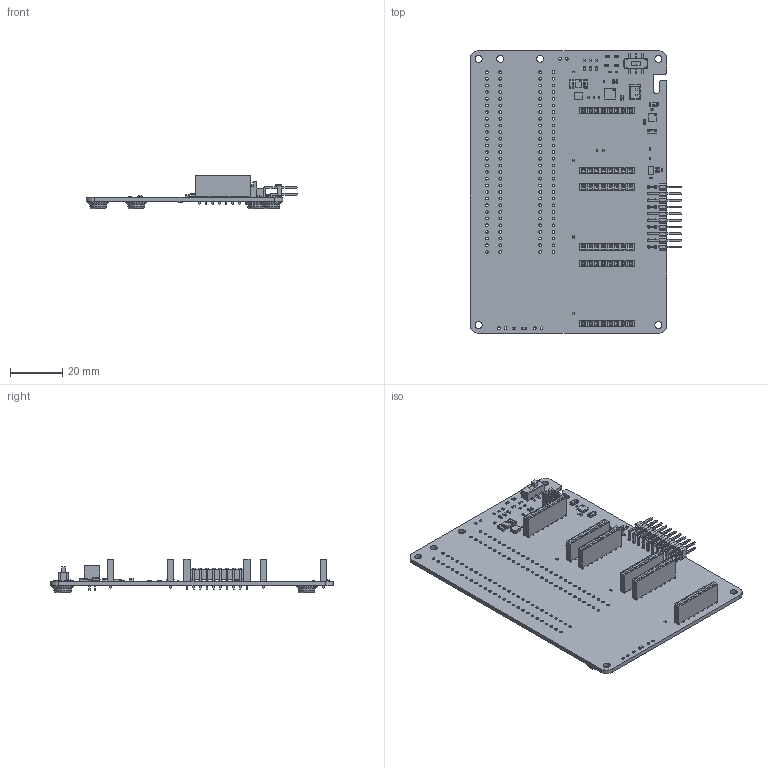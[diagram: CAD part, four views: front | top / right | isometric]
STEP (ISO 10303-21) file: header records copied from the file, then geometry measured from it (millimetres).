
FILE_DESCRIPTION(('Open CASCADE Model'),'2;1');
FILE_NAME('Open CASCADE Shape Model','2018-09-20T15:16:37',('Author'),( 'Open CASCADE'),'Open CASCADE STEP processor 6.8','Open CASCADE 6.8' ,'Unknown');
FILE_SCHEMA(('AUTOMOTIVE_DESIGN { 1 0 10303 214 1 1 1 1 }'));
Length unit declared in the file: millimetre
Products named in the file (101): PCB; Board; R22; 0402_SMD_Resistor; J13; 0603_SMD_Resistor; J12; J11; D4; SW3dPS-LED_SMD0603; E4; SJxx76; E3; E2; E1; R21; C8; 1206_SMD_Capacitor; SW1; Metal; Extruded; 6213491904; 6213491712; 6213491520; 6213491328; J9; J10; U5; 6610365952; Open_CASCADE_STEP_translator_6.8_5.1; Body; Open_CASCADE_STEP_translator_6.8_5.2.1; Thermal_Shape; Pin_Shape; Open_CASCADE_STEP_translator_6.8_5.4.1; C2; C3; smd_0805; C7; C4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
Assembly tree (183 placements, depth 5):
  PCB
    Board
    R22
      0402_SMD_Resistor
    J13
      0603_SMD_Resistor
    J12
      0603_SMD_Resistor
    J11
      0603_SMD_Resistor
    D4
      SW3dPS-LED_SMD0603
    E4
      SJxx76
    E3
      SJxx76
    E2
      SJxx76
    E1
      SJxx76
    R21
      0402_SMD_Resistor
    C8
      1206_SMD_Capacitor
    SW1
      Metal  x6
        Extruded
      6213491904  x2
        Extruded
      6213491712
        Extruded
      6213491520
      6213491328
        Extruded
    J9
      0603_SMD_Resistor
    J10
      0603_SMD_Resistor
    U5
      6610365952
        Open_CASCADE_STEP_translator_6.8_5.1
        Body
          Open_CASCADE_STEP_translator_6.8_5.2.1
        Thermal_Shape
        Pin_Shape  x12
          Open_CASCADE_STEP_translator_6.8_5.4.1
    C2
      1206_SMD_Capacitor
    C3
      smd_0805
    C7
      1206_SMD_Capacitor
    C4
      smd_0805
    D1
      SW3dPS-LED_SMD0603
    D2
      SW3dPS-LED_SMD0603
    D3
      SW3dPS-LED_SMD0603
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Bounding box: 80.64 x 107.95 x 12.89 mm (x, y, z)
Volume: 15622.1 mm3; surface area: 24945.2 mm2
Topology: 126 solids, 129 shells, 6125 faces, 15098 edges, 9133 vertices
Faces by surface type: plane 3977, cylinder 974, bspline 882, sphere 272, torus 16, cone 4
Full cylindrical faces by diameter (mm): 0.375 x1, 0.381 x1, 0.5 x1, 0.9 x2, 1.02 x186, 2.7 x6, 8.001 x4
Entity records: 78294 total; most frequent: CARTESIAN_POINT 19294, ORIENTED_EDGE 8805, DIRECTION 8304, EDGE_CURVE 4404, LINE 3336, VECTOR 3336, VERTEX_POINT 2780, PRESENTATION_STYLE_ASSIGNMENT 2623
